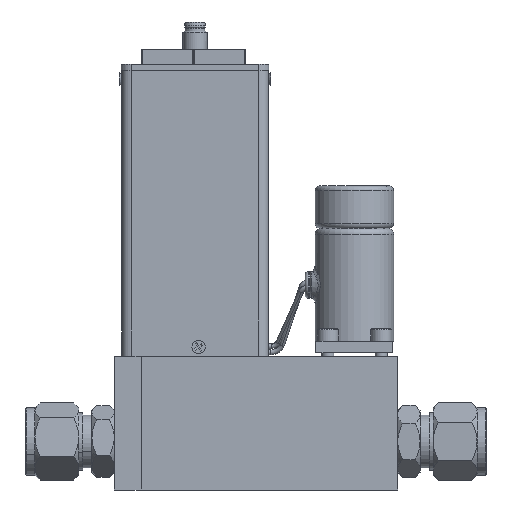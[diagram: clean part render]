
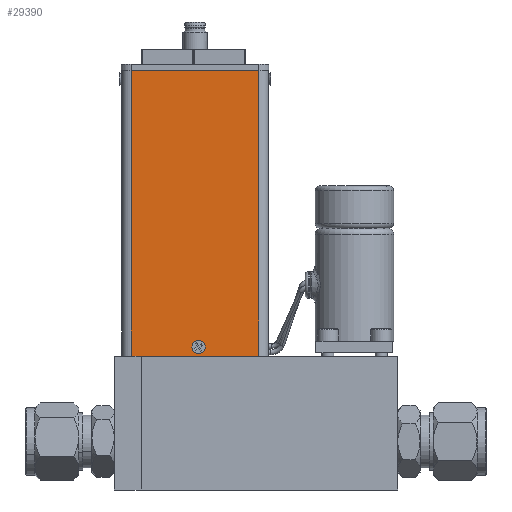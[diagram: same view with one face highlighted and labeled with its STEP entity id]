
A CAD part, front view. The second image highlights one B-rep face of the part: STEP entity #29390.
In plain terms, the highlighted planar face has unit normal (0, -1, 0).
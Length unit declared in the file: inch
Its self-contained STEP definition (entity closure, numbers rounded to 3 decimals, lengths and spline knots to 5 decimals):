
#2015 = DIRECTION ( 'NONE',  ( 0., 0., 1. ) ) ;
#3881 = CARTESIAN_POINT ( 'NONE',  ( 0.20329, 0.0091, 5.19986 ) ) ;
#4312 = EDGE_CURVE ( 'NONE', #56909, #23475, #7794, .T. ) ;
#4668 = VECTOR ( 'NONE', #70644, 39.37008 ) ;
#5565 = CARTESIAN_POINT ( 'NONE',  ( 1.07761, 0.0091, 1.60311 ) ) ;
#7794 = LINE ( 'NONE', #63437, #19627 ) ;
#7799 = EDGE_CURVE ( 'NONE', #21888, #43583, #54337, .T. ) ;
#12113 = ORIENTED_EDGE ( 'NONE', *, *, #26230, .T. ) ;
#15418 = FACE_OUTER_BOUND ( 'NONE', #23194, .T. ) ;
#15794 = AXIS2_PLACEMENT_3D ( 'NONE', #51200, #70267, #56785 ) ;
#19627 = VECTOR ( 'NONE', #32084, 39.37008 ) ;
#20553 = ORIENTED_EDGE ( 'NONE', *, *, #54911, .F. ) ;
#21888 = VERTEX_POINT ( 'NONE', #72174 ) ;
#23194 = EDGE_LOOP ( 'NONE', ( #70664, #12113, #20553, #39205 ) ) ;
#23416 = CARTESIAN_POINT ( 'NONE',  ( 0.20329, 0.0091, 5.19986 ) ) ;
#23475 = VERTEX_POINT ( 'NONE', #44644 ) ;
#23856 = DIRECTION ( 'NONE',  ( 0., 0., 1. ) ) ;
#26230 = EDGE_CURVE ( 'NONE', #56909, #61248, #56279, .T. ) ;
#26971 = PLANE ( 'NONE',  #15794 ) ;
#29390 = ADVANCED_FACE ( 'NONE', ( #40484, #15418 ), #26971, .T. ) ;
#32084 = DIRECTION ( 'NONE',  ( -1., 0., 0. ) ) ;
#34115 = LINE ( 'NONE', #3881, #70624 ) ;
#38230 = AXIS2_PLACEMENT_3D ( 'NONE', #5565, #78311, #23856 ) ;
#39205 = ORIENTED_EDGE ( 'NONE', *, *, #62494, .T. ) ;
#40484 = FACE_BOUND ( 'NONE', #61749, .T. ) ;
#41698 = VERTEX_POINT ( 'NONE', #23416 ) ;
#43583 = VERTEX_POINT ( 'NONE', #71784 ) ;
#44205 = CARTESIAN_POINT ( 'NONE',  ( 1.07761, 0.0091, 1.60311 ) ) ;
#44644 = CARTESIAN_POINT ( 'NONE',  ( 0.20233, 0.0091, 1.48534 ) ) ;
#46508 = CARTESIAN_POINT ( 'NONE',  ( 1.85833, 0.0091, 1.48491 ) ) ;
#47498 = ORIENTED_EDGE ( 'NONE', *, *, #7799, .T. ) ;
#48436 = CARTESIAN_POINT ( 'NONE',  ( 1.85833, 0.0091, 1.48491 ) ) ;
#51200 = CARTESIAN_POINT ( 'NONE',  ( 1.03033, 0.0091, 1.48512 ) ) ;
#51741 = AXIS2_PLACEMENT_3D ( 'NONE', #44205, #67263, #2015 ) ;
#52388 = DIRECTION ( 'NONE',  ( 0., 0., -1. ) ) ;
#54337 = CIRCLE ( 'NONE', #51741, 0.06299 ) ;
#54911 = EDGE_CURVE ( 'NONE', #41698, #61248, #64309, .T. ) ;
#56279 = LINE ( 'NONE', #48436, #64249 ) ;
#56785 = DIRECTION ( 'NONE',  ( 0., 0., -1. ) ) ;
#56909 = VERTEX_POINT ( 'NONE', #46508 ) ;
#57571 = CARTESIAN_POINT ( 'NONE',  ( 1.03129, 0.0091, 5.19965 ) ) ;
#61159 = DIRECTION ( 'NONE',  ( 0., 0., 1. ) ) ;
#61248 = VERTEX_POINT ( 'NONE', #72102 ) ;
#61749 = EDGE_LOOP ( 'NONE', ( #68220, #47498 ) ) ;
#62354 = CIRCLE ( 'NONE', #38230, 0.06299 ) ;
#62494 = EDGE_CURVE ( 'NONE', #41698, #23475, #34115, .T. ) ;
#63437 = CARTESIAN_POINT ( 'NONE',  ( 1.03033, 0.0091, 1.48512 ) ) ;
#64249 = VECTOR ( 'NONE', #61159, 39.37008 ) ;
#64309 = LINE ( 'NONE', #57571, #4668 ) ;
#67263 = DIRECTION ( 'NONE',  ( 0., 1., 0. ) ) ;
#68220 = ORIENTED_EDGE ( 'NONE', *, *, #76036, .T. ) ;
#70267 = DIRECTION ( 'NONE',  ( 0., -1., 0. ) ) ;
#70624 = VECTOR ( 'NONE', #52388, 39.37008 ) ;
#70644 = DIRECTION ( 'NONE',  ( 1., 0., 0. ) ) ;
#70664 = ORIENTED_EDGE ( 'NONE', *, *, #4312, .F. ) ;
#71784 = CARTESIAN_POINT ( 'NONE',  ( 1.07761, 0.0091, 1.6661 ) ) ;
#72102 = CARTESIAN_POINT ( 'NONE',  ( 1.85929, 0.0091, 5.19944 ) ) ;
#72174 = CARTESIAN_POINT ( 'NONE',  ( 1.07761, 0.0091, 1.54012 ) ) ;
#76036 = EDGE_CURVE ( 'NONE', #43583, #21888, #62354, .T. ) ;
#78311 = DIRECTION ( 'NONE',  ( 0., 1., 0. ) ) ;
